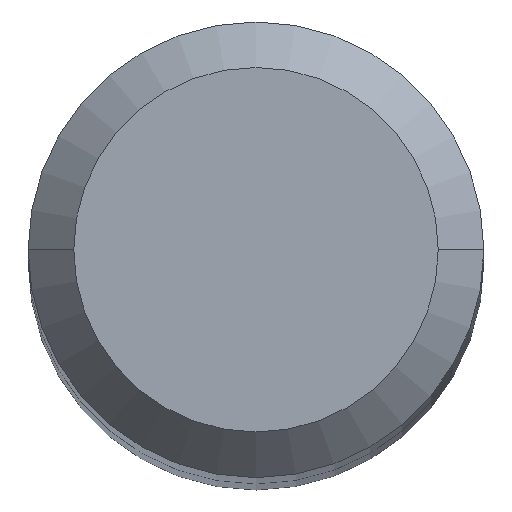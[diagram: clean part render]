
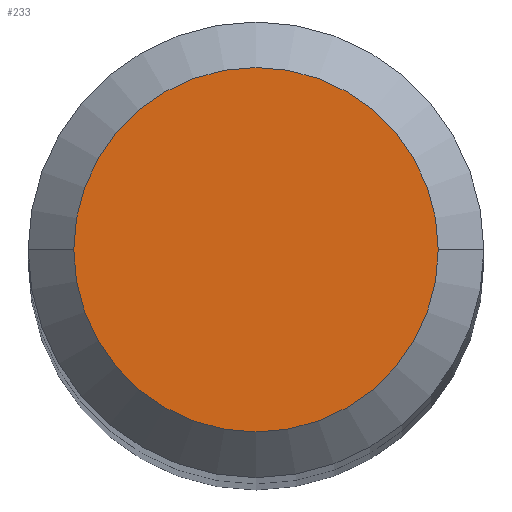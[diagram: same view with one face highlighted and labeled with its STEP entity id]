
A CAD part, top view. The second image highlights one B-rep face of the part: STEP entity #233.
In plain terms, the highlighted planar face has unit normal (0, 0, 1).
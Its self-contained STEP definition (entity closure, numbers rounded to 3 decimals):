
#18 = FACE_OUTER_BOUND ( 'NONE', #30, .T. ) ;
#20 = DIRECTION ( 'NONE',  ( 0., 0., -1. ) ) ;
#30 = EDGE_LOOP ( 'NONE', ( #303, #338 ) ) ;
#31 = DIRECTION ( 'NONE',  ( 0., 0., -1. ) ) ;
#32 = AXIS2_PLACEMENT_3D ( 'NONE', #79, #287, #383 ) ;
#42 = EDGE_CURVE ( 'NONE', #275, #278, #45, .T. ) ;
#45 = CIRCLE ( 'NONE', #263, 2.4 ) ;
#68 = CARTESIAN_POINT ( 'NONE',  ( 0., 0., 0. ) ) ;
#79 = CARTESIAN_POINT ( 'NONE',  ( 0., 2.4, 0. ) ) ;
#82 = CARTESIAN_POINT ( 'NONE',  ( 2.4, 0., 0. ) ) ;
#102 = CIRCLE ( 'NONE', #126, 2.4 ) ;
#126 = AXIS2_PLACEMENT_3D ( 'NONE', #172, #20, #291 ) ;
#152 = CARTESIAN_POINT ( 'NONE',  ( -2.4, 0., 0. ) ) ;
#172 = CARTESIAN_POINT ( 'NONE',  ( 0., 0., 0. ) ) ;
#229 = EDGE_CURVE ( 'NONE', #278, #275, #102, .T. ) ;
#233 = ADVANCED_FACE ( 'NONE', ( #18 ), #257, .T. ) ;
#257 = PLANE ( 'NONE',  #32 ) ;
#263 = AXIS2_PLACEMENT_3D ( 'NONE', #68, #31, #343 ) ;
#275 = VERTEX_POINT ( 'NONE', #82 ) ;
#278 = VERTEX_POINT ( 'NONE', #152 ) ;
#287 = DIRECTION ( 'NONE',  ( 0., 0., 1. ) ) ;
#291 = DIRECTION ( 'NONE',  ( -1., 0., 0. ) ) ;
#303 = ORIENTED_EDGE ( 'NONE', *, *, #229, .F. ) ;
#338 = ORIENTED_EDGE ( 'NONE', *, *, #42, .F. ) ;
#343 = DIRECTION ( 'NONE',  ( -1., 0., 0. ) ) ;
#383 = DIRECTION ( 'NONE',  ( 1., 0., 0. ) ) ;
